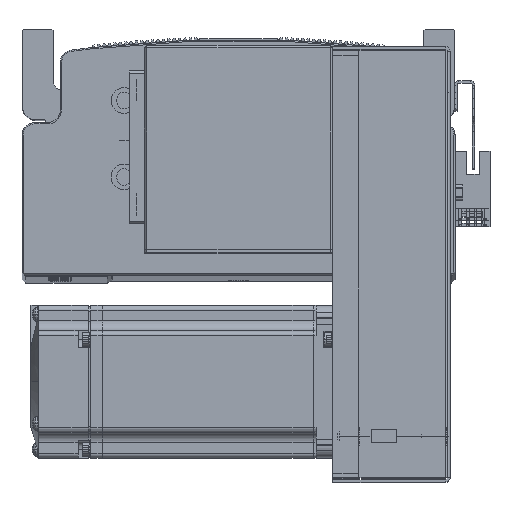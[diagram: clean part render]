
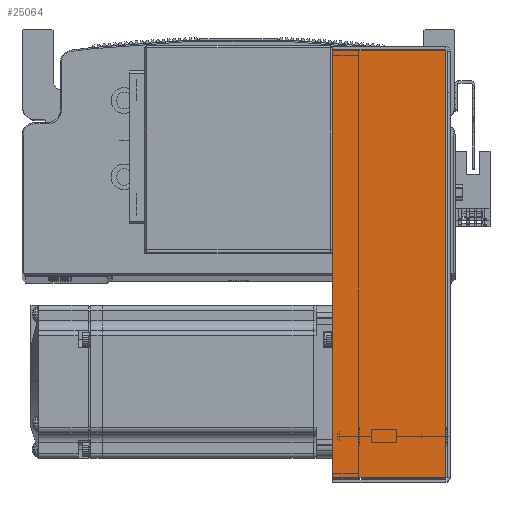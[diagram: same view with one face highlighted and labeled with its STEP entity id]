
A CAD part, top view. The second image highlights one B-rep face of the part: STEP entity #25064.
In plain terms, the highlighted planar face has unit normal (0, 0, 1) as drawn and (0, 0, -1) by its records, which use the part's own axes.
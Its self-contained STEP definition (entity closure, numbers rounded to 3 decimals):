
#198 = EDGE_LOOP ( 'NONE', ( #37312, #37344, #37335, #37307 ) ) ;
#18170 = EDGE_CURVE ( 'NONE', #23962, #23936, #38668, .T. ) ;
#18185 = EDGE_CURVE ( 'NONE', #23870, #23936, #38740, .T. ) ;
#18215 = EDGE_CURVE ( 'NONE', #23892, #23962, #38855, .T. ) ;
#18230 = EDGE_CURVE ( 'NONE', #23892, #23870, #38815, .T. ) ;
#23870 = VERTEX_POINT ( 'NONE', #64350 ) ;
#23892 = VERTEX_POINT ( 'NONE', #64259 ) ;
#23936 = VERTEX_POINT ( 'NONE', #64345 ) ;
#23962 = VERTEX_POINT ( 'NONE', #64284 ) ;
#24059 = FACE_OUTER_BOUND ( 'NONE', #198, .T. ) ;
#25064 = ADVANCED_FACE ( 'NONE', ( #24059 ), #64393, .F. ) ;
#35148 = AXIS2_PLACEMENT_3D ( 'NONE', #64381, #64410, #64412 ) ;
#37307 = ORIENTED_EDGE ( 'NONE', *, *, #18170, .F. ) ;
#37312 = ORIENTED_EDGE ( 'NONE', *, *, #18215, .F. ) ;
#37335 = ORIENTED_EDGE ( 'NONE', *, *, #18185, .T. ) ;
#37344 = ORIENTED_EDGE ( 'NONE', *, *, #18230, .T. ) ;
#38622 = VECTOR ( 'NONE', #78561, 1000. ) ;
#38665 = VECTOR ( 'NONE', #78615, 1000. ) ;
#38668 = LINE ( 'NONE', #78544, #38622 ) ;
#38740 = LINE ( 'NONE', #78597, #38665 ) ;
#38780 = VECTOR ( 'NONE', #78742, 1000. ) ;
#38815 = LINE ( 'NONE', #78740, #38780 ) ;
#38855 = LINE ( 'NONE', #78701, #38870 ) ;
#38870 = VECTOR ( 'NONE', #78693, 1000. ) ;
#64259 = CARTESIAN_POINT ( 'NONE',  ( -83.793, 0.737, -40.5 ) ) ;
#64284 = CARTESIAN_POINT ( 'NONE',  ( 83.793, 0.737, -40.5 ) ) ;
#64345 = CARTESIAN_POINT ( 'NONE',  ( 83.793, 45., -40.5 ) ) ;
#64350 = CARTESIAN_POINT ( 'NONE',  ( -83.793, 45., -40.5 ) ) ;
#64381 = CARTESIAN_POINT ( 'NONE',  ( 0., 0., -40.5 ) ) ;
#64393 = PLANE ( 'NONE',  #35148 ) ;
#64410 = DIRECTION ( 'NONE',  ( 0., 0., 1. ) ) ;
#64412 = DIRECTION ( 'NONE',  ( 0., -1., 0. ) ) ;
#78544 = CARTESIAN_POINT ( 'NONE',  ( 83.793, 0., -40.5 ) ) ;
#78561 = DIRECTION ( 'NONE',  ( 0., 1., 0. ) ) ;
#78597 = CARTESIAN_POINT ( 'NONE',  ( 84.5, 45., -40.5 ) ) ;
#78615 = DIRECTION ( 'NONE',  ( 1., 0., 0. ) ) ;
#78693 = DIRECTION ( 'NONE',  ( 1., 0., 0. ) ) ;
#78701 = CARTESIAN_POINT ( 'NONE',  ( 0., 0.737, -40.5 ) ) ;
#78740 = CARTESIAN_POINT ( 'NONE',  ( -83.793, 0., -40.5 ) ) ;
#78742 = DIRECTION ( 'NONE',  ( 0., 1., 0. ) ) ;
